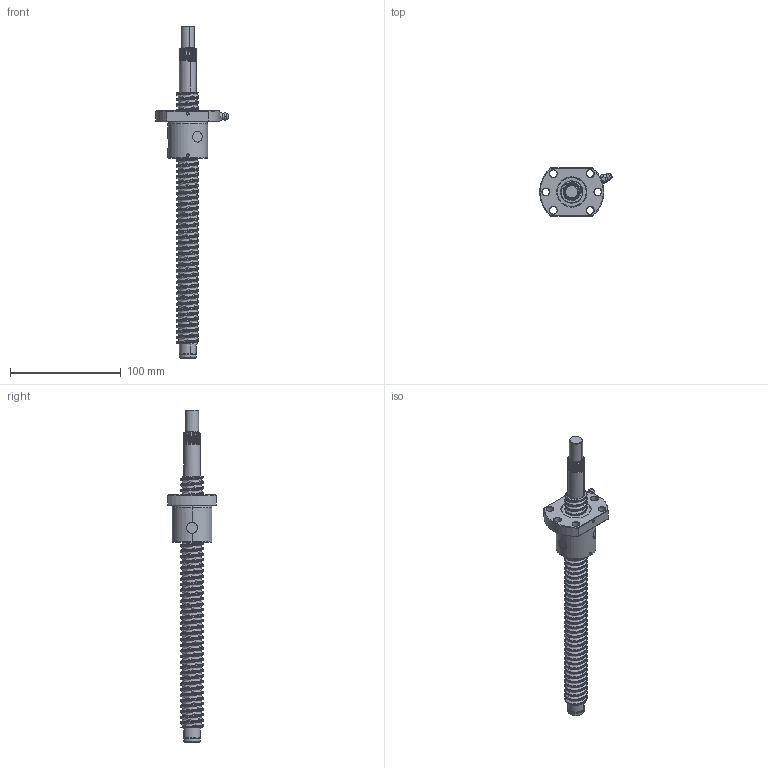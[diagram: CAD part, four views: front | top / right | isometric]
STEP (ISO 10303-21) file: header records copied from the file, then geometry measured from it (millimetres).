
FILE_DESCRIPTION (( 'STEP AP214' ), '1' );
FILE_NAME ('SFU2005-300 With Nut.STEP', '2018-03-24T13:14:21', ( '' ), ( '' ), 'SwSTEP 2.0', 'SolidWorks 2017', '' );
FILE_SCHEMA (( 'AUTOMOTIVE_DESIGN' ));
Length unit declared in the file: millimetre
Products named in the file (11): SFU2005-300_2005-300; SFU2005-3; socket set screw cone point_iso_ISO 4027 - M3 x 5-C; socket set screw cone point_iso_ISO 4027 - M3 x 2.5-C; Grease Nipple A M6x1.00; Steel Ball_O 2.50; Grease Nipple A_A M6x1.00; SFU2005 Washer Back; SFU2005 Washer Front; SFU Ball Nut_2005-3; SFU2005-300 With Nut
Assembly tree (12 placements, depth 4):
  SFU2005-300 With Nut
    SFU2005-3
      SFU Ball Nut_2005-3
      SFU2005 Washer Front
      SFU2005 Washer Back
      Grease Nipple A M6x1.00
        Grease Nipple A_A M6x1.00
        Steel Ball_O 2.50
      socket set screw cone point_iso_ISO 4027 - M3 x 2.5-C  x2
      socket set screw cone point_iso_ISO 4027 - M3 x 5-C  x2
    SFU2005-300_2005-300
Bounding box: 65.68 x 44 x 300 mm (x, y, z)
Volume: 111519.9 mm3; surface area: 39793.1 mm2
Topology: 10 solids, 10 shells, 550 faces, 1451 edges, 923 vertices
Faces by surface type: cylinder 308, cone 95, plane 73, torus 35, bspline 35, sphere 4
Entity records: 78041 total; most frequent: CARTESIAN_POINT 66180, ORIENTED_EDGE 2746, DIRECTION 2026, EDGE_CURVE 1373, VERTEX_POINT 879, AXIS2_PLACEMENT_3D 796, EDGE_LOOP 564, ADVANCED_FACE 522
